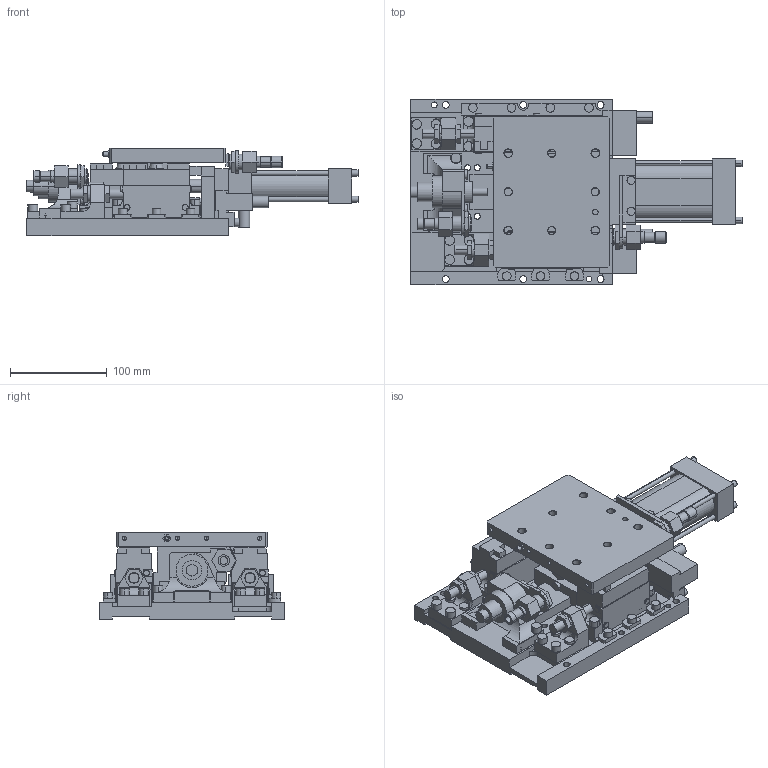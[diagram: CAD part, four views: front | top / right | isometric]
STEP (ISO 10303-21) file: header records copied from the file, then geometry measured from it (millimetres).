
FILE_DESCRIPTION (( 'STEP AP214' ), '1' );
FILE_NAME ('slg40_50.STEP', '2020-04-28T06:44:32', ( '' ), ( '' ), 'SwSTEP 2.0', 'SolidWorks 2019', '' );
FILE_SCHEMA (( 'AUTOMOTIVE_DESIGN' ));
Length unit declared in the file: millimetre
Products named in the file (8): slg40_50; staffa_ferma_otturatore_slg40; piastra_superiore_slg40; otturatore_sx_slg40; base_slg40_50; staffa_deceleratore_slg40; otturatore_dx_slg40; deceleratore_slg40
Assembly tree (8 placements, depth 2):
  slg40_50
    base_slg40_50
    piastra_superiore_slg40
    staffa_deceleratore_slg40
    deceleratore_slg40
    staffa_ferma_otturatore_slg40  x2
    otturatore_sx_slg40
    otturatore_dx_slg40
Bounding box: 343.1 x 192 x 90 mm (x, y, z)
Volume: 1907388.9 mm3; surface area: 371965 mm2
Topology: 18 solids, 20 shells, 1088 faces, 2711 edges, 1711 vertices
Faces by surface type: plane 571, cylinder 391, cone 118, torus 8
Entity records: 34158 total; most frequent: CARTESIAN_POINT 5890, DIRECTION 5475, ORIENTED_EDGE 5104, EDGE_CURVE 2552, AXIS2_PLACEMENT_3D 1904, VECTOR 1667, LINE 1667, VERTEX_POINT 1635
